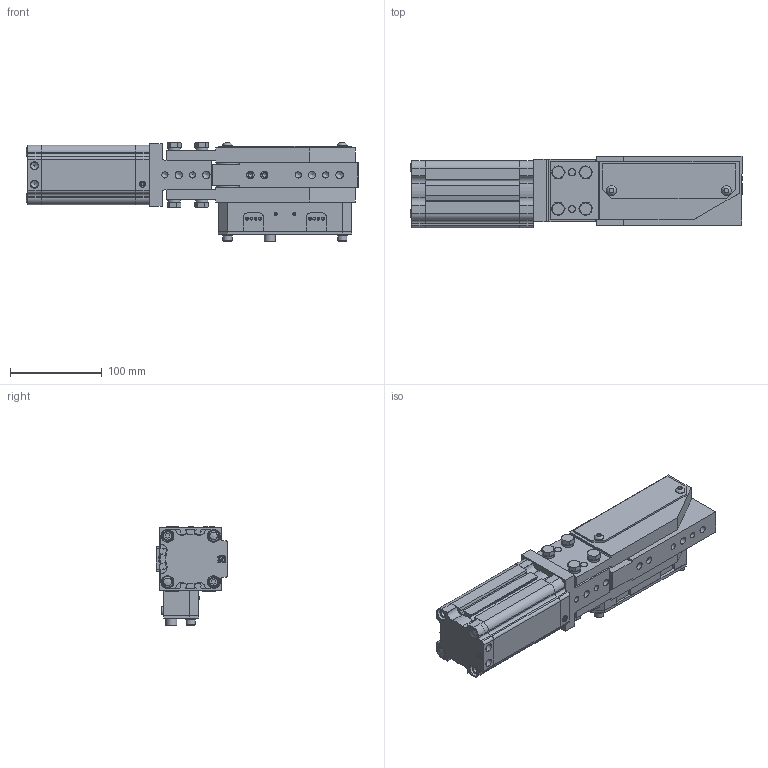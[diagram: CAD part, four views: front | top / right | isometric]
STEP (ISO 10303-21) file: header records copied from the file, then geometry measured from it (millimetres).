
FILE_DESCRIPTION(/* description */ ('PART EJECTOR'),/* implementation_level */ '2;1');
FILE_NAME(/* name */ 'C:\Users\rcarver\Desktop\MPE\MPE030A30ARA00.stp',/* time_stamp */ '2016-05-25T10:23:40-04:00',/* author */ ('rcarver'),/* organization */ (''),/* preprocessor_version */ 'ST-DEVELOPER v16.5',/* originating_system */ 'Autodesk Inventor 2017',/* authorisation */ '');
FILE_SCHEMA (('AUTOMOTIVE_DESIGN { 1 0 10303 214 3 1 1 }'));
Products named in the file (48): MPE30L01; WCW2148E02-075; MPE30E03N; MPE30E03G; MPE30E09; MPE30E06; MPE30E07; MPE30E08; MPE30E12; WCW2148E04; WCW2148E01; FEF-405-1; GSI-1214-16; M8X1.25-25 HEX; NL8; MPE30E16; 0.500-20 HEXJAMNUT; 0.062-27 NPT PLUG; PLH005A; MA1500x2.00DIA; MC0750X1000-125N; OR-032-RADIAL; OR-011-FACE; TSP-326BN70; TSR-075BN70; TSI-1214-06; M5X0.8-120 SHCS; M6X1-10 BHCS; 0.500X1.000 DOWEL; NL5SP; M6X1-135 SHCS; 0.50ID-SAE; MOR-2.0X016.0bn70; 8mmX20 ; MPE30E10; MPE30E11; SEE SWITCH CHART; S01; S02; PIN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
Assembly tree (90 placements, depth 2):
  MPE30L01
    WCW2148E02-075
    MPE30E03N
    MPE30E03G
    MPE30E09
    MPE30E06  x2
    MPE30E07
    MPE30E08
    MPE30E12
    WCW2148E04
    WCW2148E01
    FEF-405-1  x2
    GSI-1214-16  x2
    M8X1.25-25 HEX  x8
    NL8  x8
    MPE30E16  x4
    0.500-20 HEXJAMNUT
    0.062-27 NPT PLUG
    PLH005A  x2
    MA1500x2.00DIA
    MC0750X1000-125N  x2
    OR-032-RADIAL  x2
    OR-011-FACE  x2
    TSP-326BN70
    TSR-075BN70
    TSI-1214-06
    M5X0.8-120 SHCS  x2
    M6X1-10 BHCS  x4
    0.500X1.000 DOWEL
    NL5SP  x2
    M6X1-135 SHCS  x2
    NL6  x4
    0.50ID-SAE
    MOR-2.0X016.0bn70
    8mmX20   x2
    MPE30E10
    MPE30E11
    SEE SWITCH CHART
    PIN  x4
    S01
    S02
    MPE30E13
    M5X0.8-25 SHCS
    M6X1-50 SHCS  x2
    90692A694  x2
    MPE30E14  x2
    SH-50  x4
    MPE30E15
Bounding box: 361.18 x 78 x 107.43 mm (x, y, z)
Volume: 1359097.4 mm3; surface area: 432189.2 mm2
Topology: 90 solids, 170 shells, 1688 faces, 4159 edges, 2856 vertices
Faces by surface type: plane 823, cylinder 501, cone 177, bspline 159, torus 21, sphere 7
Full cylindrical faces by diameter (mm): 0.01 x1, 1.191 x4, 2 x2, 2.01 x2, 2.4 x8, 3 x2, 3.175 x12, 3.2 x4, 4.134 x3, 4.75 x2, 4.917 x12, 4.978 x4, 5 x3, 5.4 x2, 5.5 x4, 5.944 x1, 6 x11, 6.35 x1, 6.5 x20, 6.647 x14, 7.5 x4, 7.95 x2, 8 x29, 8.05 x2, 8.5 x13, 8.7 x8, 10 x4, 10.5 x4, 10.8 x4, 10.9 x2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
Entity records: 38464 total; most frequent: CARTESIAN_POINT 8664, DIRECTION 5638, ORIENTED_EDGE 5292, EDGE_CURVE 2694, AXIS2_PLACEMENT_3D 2084, VERTEX_POINT 1982, EDGE_LOOP 1852, LINE 1470
